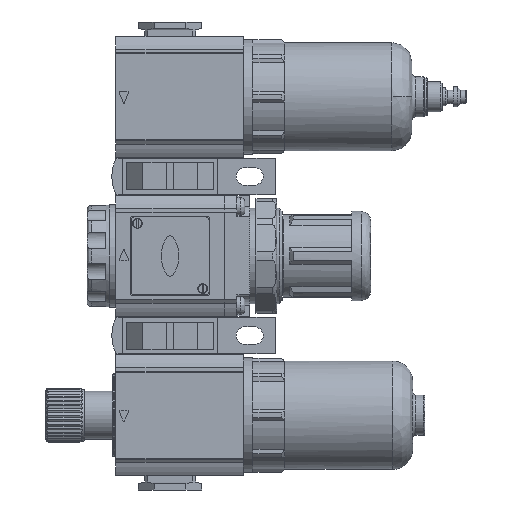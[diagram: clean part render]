
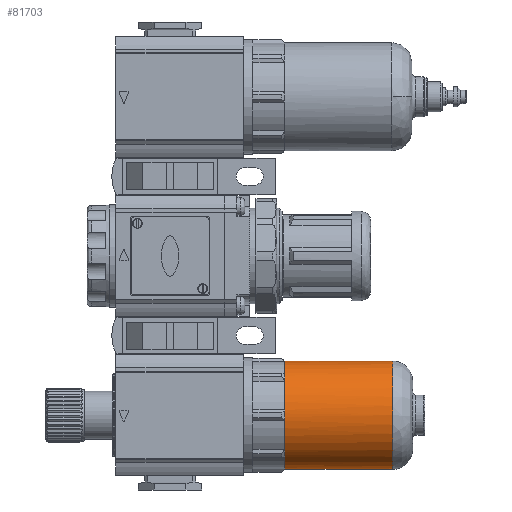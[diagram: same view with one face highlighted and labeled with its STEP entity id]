
A CAD part, left-side view. The second image highlights one B-rep face of the part: STEP entity #81703.
In plain terms, the highlighted cylindrical face has radius 17 mm (diameter 34 mm), a partial arc.
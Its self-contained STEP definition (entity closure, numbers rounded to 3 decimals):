
#268 = CARTESIAN_POINT ( 'NONE',  ( -10.786, -36., -36.86 ) ) ;
#859 = EDGE_CURVE ( 'NONE', #70328, #25788, #22920, .T. ) ;
#1201 = EDGE_CURVE ( 'NONE', #15243, #74044, #4995, .T. ) ;
#1848 = ORIENTED_EDGE ( 'NONE', *, *, #7572, .T. ) ;
#2210 = CARTESIAN_POINT ( 'NONE',  ( 0., -36., -67. ) ) ;
#3065 = CARTESIAN_POINT ( 'NONE',  ( -13.14, -36., -60.786 ) ) ;
#3264 = CARTESIAN_POINT ( 'NONE',  ( 0., -36., -50. ) ) ;
#3803 = ORIENTED_EDGE ( 'NONE', *, *, #1201, .T. ) ;
#3847 = ORIENTED_EDGE ( 'NONE', *, *, #14922, .T. ) ;
#4514 = VECTOR ( 'NONE', #5872, 1000. ) ;
#4995 = CIRCLE ( 'NONE', #32557, 17. ) ;
#5440 = CARTESIAN_POINT ( 'NONE',  ( 0., -36., -50. ) ) ;
#5872 = DIRECTION ( 'NONE',  ( 0., -1., 0. ) ) ;
#7572 = EDGE_CURVE ( 'NONE', #37248, #81656, #53410, .T. ) ;
#7579 = CARTESIAN_POINT ( 'NONE',  ( 0., -36., -50. ) ) ;
#8091 = DIRECTION ( 'NONE',  ( 0., 0., -1. ) ) ;
#8677 = FACE_OUTER_BOUND ( 'NONE', #23112, .T. ) ;
#8726 = DIRECTION ( 'NONE',  ( 0., 0., -1. ) ) ;
#11135 = ORIENTED_EDGE ( 'NONE', *, *, #57793, .F. ) ;
#12211 = DIRECTION ( 'NONE',  ( 0., -1., 0. ) ) ;
#12817 = EDGE_CURVE ( 'NONE', #48307, #74044, #25884, .T. ) ;
#13046 = EDGE_CURVE ( 'NONE', #58834, #37248, #74141, .T. ) ;
#13457 = ORIENTED_EDGE ( 'NONE', *, *, #70849, .T. ) ;
#14784 = VECTOR ( 'NONE', #65216, 1000. ) ;
#14922 = EDGE_CURVE ( 'NONE', #81656, #19820, #32658, .T. ) ;
#15243 = VERTEX_POINT ( 'NONE', #71496 ) ;
#19304 = DIRECTION ( 'NONE',  ( 0., 0., -1. ) ) ;
#19607 = CIRCLE ( 'NONE', #44372, 17. ) ;
#19818 = CARTESIAN_POINT ( 'NONE',  ( 0., -36., -50. ) ) ;
#19820 = VERTEX_POINT ( 'NONE', #51394 ) ;
#21033 = CARTESIAN_POINT ( 'NONE',  ( 0., -36., -50. ) ) ;
#21065 = CARTESIAN_POINT ( 'NONE',  ( 0., -36., -50. ) ) ;
#22358 = AXIS2_PLACEMENT_3D ( 'NONE', #37448, #12211, #37726 ) ;
#22920 = CIRCLE ( 'NONE', #74238, 17. ) ;
#23112 = EDGE_LOOP ( 'NONE', ( #79896, #3803, #79474, #13457, #49806, #34987, #11135, #55005, #80727, #30181, #1848, #3847 ) ) ;
#23540 = AXIS2_PLACEMENT_3D ( 'NONE', #63244, #62965, #19304 ) ;
#24466 = CARTESIAN_POINT ( 'NONE',  ( -16.918, -36., -51.665 ) ) ;
#25325 = LINE ( 'NONE', #31358, #4514 ) ;
#25788 = VERTEX_POINT ( 'NONE', #81917 ) ;
#25884 = CIRCLE ( 'NONE', #35123, 17. ) ;
#26458 = CYLINDRICAL_SURFACE ( 'NONE', #23540, 17. ) ;
#27148 = CARTESIAN_POINT ( 'NONE',  ( 0., -52.95, -67. ) ) ;
#28110 = VERTEX_POINT ( 'NONE', #75366 ) ;
#28256 = DIRECTION ( 'NONE',  ( 0., -1., 0. ) ) ;
#28911 = CARTESIAN_POINT ( 'NONE',  ( 0., -69.9, -50. ) ) ;
#30181 = ORIENTED_EDGE ( 'NONE', *, *, #13046, .T. ) ;
#30968 = CARTESIAN_POINT ( 'NONE',  ( -16.918, -36., -48.335 ) ) ;
#31358 = CARTESIAN_POINT ( 'NONE',  ( 0., -52.95, -33. ) ) ;
#32302 = DIRECTION ( 'NONE',  ( 0., 0., -1. ) ) ;
#32557 = AXIS2_PLACEMENT_3D ( 'NONE', #21065, #28256, #8091 ) ;
#32658 = CIRCLE ( 'NONE', #77023, 17. ) ;
#33053 = DIRECTION ( 'NONE',  ( 0., 0., -1. ) ) ;
#33102 = DIRECTION ( 'NONE',  ( 0., 1., 0. ) ) ;
#34987 = ORIENTED_EDGE ( 'NONE', *, *, #41519, .T. ) ;
#35074 = DIRECTION ( 'NONE',  ( 0., 0., -1. ) ) ;
#35123 = AXIS2_PLACEMENT_3D ( 'NONE', #7579, #51823, #33053 ) ;
#35275 = DIRECTION ( 'NONE',  ( 0., 0., -1. ) ) ;
#37248 = VERTEX_POINT ( 'NONE', #2210 ) ;
#37448 = CARTESIAN_POINT ( 'NONE',  ( 0., -36., -50. ) ) ;
#37726 = DIRECTION ( 'NONE',  ( 0., 0., -1. ) ) ;
#41519 = EDGE_CURVE ( 'NONE', #56466, #44121, #74169, .T. ) ;
#41730 = AXIS2_PLACEMENT_3D ( 'NONE', #5440, #49717, #55479 ) ;
#43626 = CIRCLE ( 'NONE', #51039, 17. ) ;
#44121 = VERTEX_POINT ( 'NONE', #24466 ) ;
#44372 = AXIS2_PLACEMENT_3D ( 'NONE', #21033, #77883, #58633 ) ;
#44855 = CARTESIAN_POINT ( 'NONE',  ( 0., -69.9, -67. ) ) ;
#48307 = VERTEX_POINT ( 'NONE', #268 ) ;
#49717 = DIRECTION ( 'NONE',  ( 0., 1., 0. ) ) ;
#49806 = ORIENTED_EDGE ( 'NONE', *, *, #75649, .F. ) ;
#51039 = AXIS2_PLACEMENT_3D ( 'NONE', #60412, #53293, #35074 ) ;
#51394 = CARTESIAN_POINT ( 'NONE',  ( 0., -69.9, -33. ) ) ;
#51823 = DIRECTION ( 'NONE',  ( 0., 1., 0. ) ) ;
#51892 = DIRECTION ( 'NONE',  ( 0., -1., 0. ) ) ;
#53293 = DIRECTION ( 'NONE',  ( 0., 1., 0. ) ) ;
#53410 = LINE ( 'NONE', #27148, #14784 ) ;
#55005 = ORIENTED_EDGE ( 'NONE', *, *, #859, .T. ) ;
#55475 = AXIS2_PLACEMENT_3D ( 'NONE', #19818, #33102, #32302 ) ;
#55479 = DIRECTION ( 'NONE',  ( 0., 0., -1. ) ) ;
#56466 = VERTEX_POINT ( 'NONE', #30968 ) ;
#57793 = EDGE_CURVE ( 'NONE', #70328, #44121, #65855, .T. ) ;
#58633 = DIRECTION ( 'NONE',  ( 0., 0., -1. ) ) ;
#58834 = VERTEX_POINT ( 'NONE', #81727 ) ;
#60254 = EDGE_CURVE ( 'NONE', #58834, #25788, #43626, .T. ) ;
#60412 = CARTESIAN_POINT ( 'NONE',  ( 0., -36., -50. ) ) ;
#60474 = DIRECTION ( 'NONE',  ( 0., -1., 0. ) ) ;
#62965 = DIRECTION ( 'NONE',  ( 0., -1., 0. ) ) ;
#63244 = CARTESIAN_POINT ( 'NONE',  ( 0., -52.95, -50. ) ) ;
#64542 = CARTESIAN_POINT ( 'NONE',  ( 0., -36., -50. ) ) ;
#65216 = DIRECTION ( 'NONE',  ( 0., -1., 0. ) ) ;
#65541 = EDGE_CURVE ( 'NONE', #15243, #19820, #25325, .T. ) ;
#65855 = CIRCLE ( 'NONE', #55475, 17. ) ;
#65998 = DIRECTION ( 'NONE',  ( 0., 0., -1. ) ) ;
#66112 = CIRCLE ( 'NONE', #41730, 17. ) ;
#70328 = VERTEX_POINT ( 'NONE', #3065 ) ;
#70849 = EDGE_CURVE ( 'NONE', #48307, #28110, #19607, .T. ) ;
#71496 = CARTESIAN_POINT ( 'NONE',  ( 0., -36., -33. ) ) ;
#73069 = DIRECTION ( 'NONE',  ( 0., 1., 0. ) ) ;
#74044 = VERTEX_POINT ( 'NONE', #81655 ) ;
#74141 = CIRCLE ( 'NONE', #22358, 17. ) ;
#74169 = CIRCLE ( 'NONE', #81904, 17. ) ;
#74238 = AXIS2_PLACEMENT_3D ( 'NONE', #64542, #51892, #8726 ) ;
#75366 = CARTESIAN_POINT ( 'NONE',  ( -13.14, -36., -39.214 ) ) ;
#75649 = EDGE_CURVE ( 'NONE', #56466, #28110, #66112, .T. ) ;
#77023 = AXIS2_PLACEMENT_3D ( 'NONE', #28911, #73069, #35275 ) ;
#77883 = DIRECTION ( 'NONE',  ( 0., -1., 0. ) ) ;
#79474 = ORIENTED_EDGE ( 'NONE', *, *, #12817, .F. ) ;
#79896 = ORIENTED_EDGE ( 'NONE', *, *, #65541, .F. ) ;
#80727 = ORIENTED_EDGE ( 'NONE', *, *, #60254, .F. ) ;
#81655 = CARTESIAN_POINT ( 'NONE',  ( -1.665, -36., -33.082 ) ) ;
#81656 = VERTEX_POINT ( 'NONE', #44855 ) ;
#81703 = ADVANCED_FACE ( 'NONE', ( #8677 ), #26458, .T. ) ;
#81727 = CARTESIAN_POINT ( 'NONE',  ( -1.665, -36., -66.918 ) ) ;
#81904 = AXIS2_PLACEMENT_3D ( 'NONE', #3264, #60474, #65998 ) ;
#81917 = CARTESIAN_POINT ( 'NONE',  ( -10.786, -36., -63.14 ) ) ;
